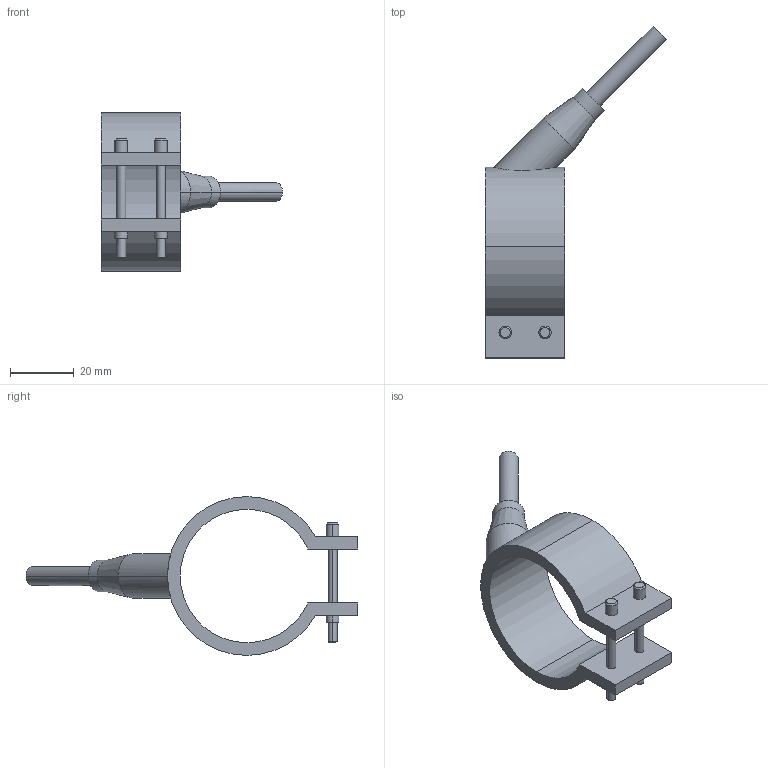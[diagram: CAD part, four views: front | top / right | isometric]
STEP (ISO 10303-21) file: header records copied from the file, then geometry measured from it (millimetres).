
FILE_DESCRIPTION(('CATIA V5 STEP Exchange'),'2;1');
FILE_NAME('C:\Users\Utente\Desktop\IO LAVORO\3D X SITO CF\X SITO\PLASTICA\RF1\29042025.stp','2021-03-27T09:39:53+00:00',('none'),('none'),'CATIA Version 5 Release 20 GA (IN-10)','CATIA V5 STEP AP203','none');
FILE_SCHEMA(('CONFIG_CONTROL_DESIGN'));
Length unit declared in the file: millimetre
Products named in the file (1): 29042025
Bounding box: 57.05 x 104.55 x 50 mm (x, y, z)
Volume: 20434.5 mm3; surface area: 11209.3 mm2
Topology: 1 solids, 1 shells, 54 faces, 123 edges, 79 vertices
Faces by surface type: cylinder 28, plane 16, cone 10
Entity records: 1735 total; most frequent: CARTESIAN_POINT 503, ORIENTED_EDGE 246, DIRECTION 213, EDGE_CURVE 123, AXIS2_PLACEMENT_3D 106, VERTEX_POINT 79, EDGE_LOOP 66, VECTOR 56
